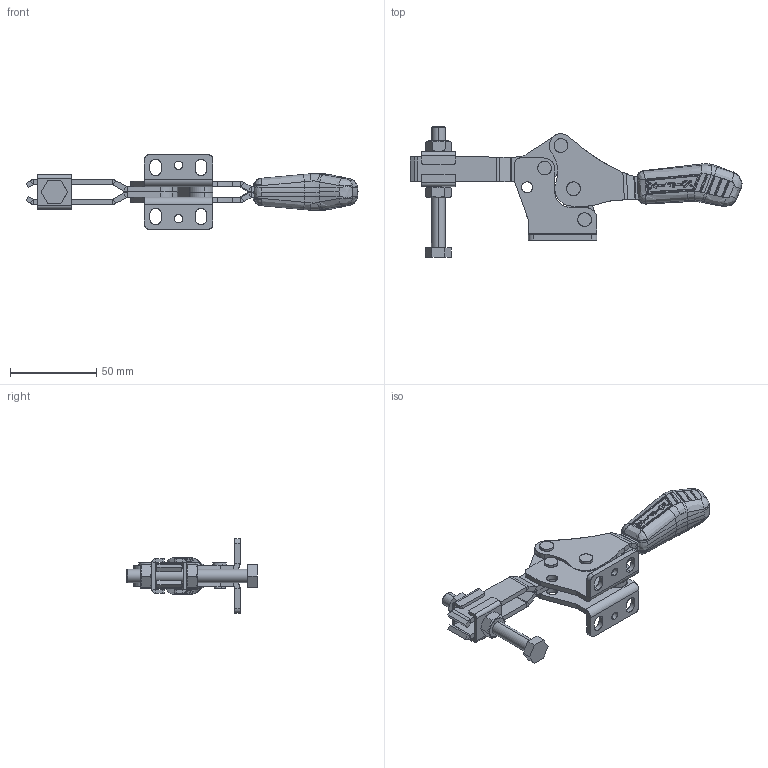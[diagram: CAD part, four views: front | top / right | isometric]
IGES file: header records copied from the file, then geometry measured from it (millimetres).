
Start section: SolidWorks IGES file using analytic representation for surfaces
Global section: file name: C:\Projetos\Grampos\KF-722\KF-722 D\KF-722 D.IGS; native system: SolidWorks 2018; preprocessor: SolidWorks 2018; author: Ricardo; date: 180306.082713; units: millimetre
Bounding box: 192 x 75.31 x 43.2 mm (x, y, z)
Surface area: 41412.5 mm2 (no closed solid volume)
Topology: 0 solids, 0 shells, 1008 faces, 9897 edges, 9845 vertices
Faces by surface type: bspline 602, revolution 406
